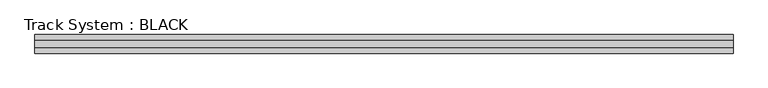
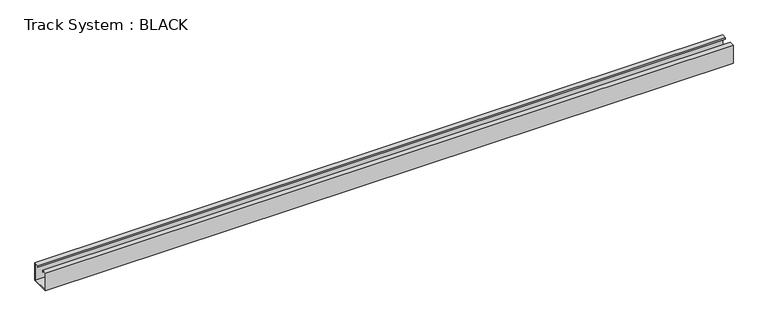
"""IFC4 building model written with IfcOpenShell, lengths in millimetres: proxy geometry, Track System : BLACK."""

from ifc_helpers import new_model, si_unit, frame, origin, place, context, project, spatial, polyline, outline, extrude, source, transform, mapped, element, save


def track_system_black_29592c26(model_context):
    return source(origin(), model_context, "Body", "SweptSolid", [
        extrude(outline(polyline([(-7.0, 32.5), (-7.0, 29.5366355), (-8.0, 29.5366355), (-8.0, 31.5), (-14.9857524, 31.5), (-14.9857524, 1.0), (15.0, 1.0), (15.0, 31.5), (8.0, 31.5), (8.0, 29.5366355), (7.0, 29.5366355), (7.0, 32.5), (16.0, 32.5), (16.0, 0.0), (-15.9857524, 0.0), (-15.9857524, 32.5), (-7.0, 32.5)])), frame((-600.0, 0.0, 0.0), z_axis=(1.0, 0.0, 0.0), x_axis=(0.0, 1.0, 0.0)), (0.0, 0.0, 1.0), 1200.0),
    ])


if __name__ == "__main__":
    model = new_model("IFC4")
    model_context = context("Model", 3, world=origin())
    ifc_project = project(units=[si_unit("LENGTHUNIT", "METRE", prefix="MILLI")], contexts=[model_context])
    site = spatial("IfcSite", under=ifc_project)
    building = spatial("IfcBuilding", under=site)
    placement = place(None, origin())
    track_system_black_shape = track_system_black_29592c26(model_context)
    element("IfcBuildingElementProxy", 1, Name="Track System : BLACK", ObjectType="Track System : BLACK", at=placement, inside=building, context=model_context, shape_type="MappedRepresentation", body=[
        mapped(track_system_black_shape, transform((0.0, 0.0, 0.0), x_axis=(1.0, 0.0, 0.0), y_axis=(0.0, 1.0, 0.0), z_axis=(0.0, 0.0, 1.0))),
    ])
    save(model, "model.ifc")
